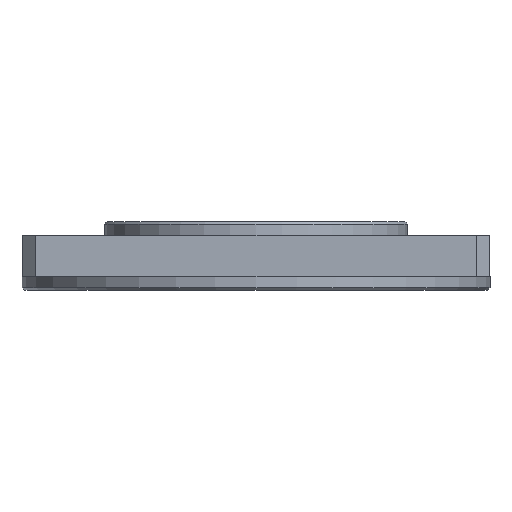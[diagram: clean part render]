
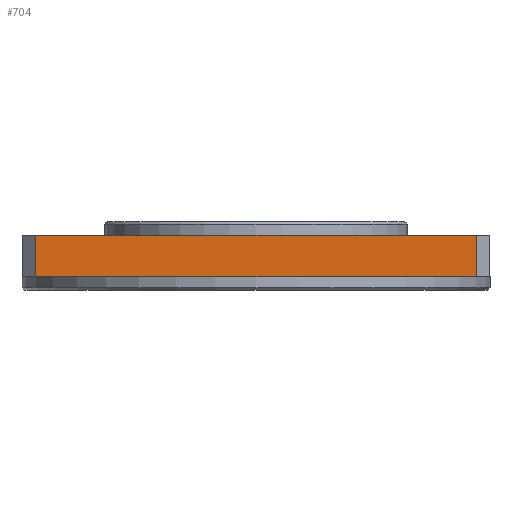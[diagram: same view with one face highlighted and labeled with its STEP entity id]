
A CAD part, front view. The second image highlights one B-rep face of the part: STEP entity #704.
In plain terms, the highlighted planar face has unit normal (0, -1, 0).
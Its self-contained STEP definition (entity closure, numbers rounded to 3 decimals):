
#196 = CARTESIAN_POINT ( 'NONE',  ( -80., -175., 20. ) ) ;
#200 = DIRECTION ( 'NONE',  ( 0., 0., 1. ) ) ;
#359 = DIRECTION ( 'NONE',  ( 0., 0., -1. ) ) ;
#399 = DIRECTION ( 'NONE',  ( -1., 0., 0. ) ) ;
#448 = EDGE_CURVE ( 'NONE', #2171, #2736, #1648, .T. ) ;
#547 = ORIENTED_EDGE ( 'NONE', *, *, #1626, .T. ) ;
#619 = VERTEX_POINT ( 'NONE', #1882 ) ;
#643 = VECTOR ( 'NONE', #2414, 1000. ) ;
#704 = ADVANCED_FACE ( 'NONE', ( #1450 ), #3202, .F. ) ;
#852 = AXIS2_PLACEMENT_3D ( 'NONE', #2212, #959, #200 ) ;
#879 = CARTESIAN_POINT ( 'NONE',  ( 80., -175., 25. ) ) ;
#959 = DIRECTION ( 'NONE',  ( 0., 1., 0. ) ) ;
#1010 = DIRECTION ( 'NONE',  ( 1., 0., 0. ) ) ;
#1275 = VERTEX_POINT ( 'NONE', #196 ) ;
#1286 = ORIENTED_EDGE ( 'NONE', *, *, #1344, .F. ) ;
#1344 = EDGE_CURVE ( 'NONE', #1275, #619, #2268, .T. ) ;
#1431 = VECTOR ( 'NONE', #399, 1000. ) ;
#1450 = FACE_OUTER_BOUND ( 'NONE', #3099, .T. ) ;
#1619 = LINE ( 'NONE', #2647, #2459 ) ;
#1626 = EDGE_CURVE ( 'NONE', #2171, #619, #2465, .T. ) ;
#1648 = LINE ( 'NONE', #2893, #1431 ) ;
#1882 = CARTESIAN_POINT ( 'NONE',  ( 80., -175., 20. ) ) ;
#1907 = CARTESIAN_POINT ( 'NONE',  ( 80., -175., 5. ) ) ;
#2171 = VERTEX_POINT ( 'NONE', #1907 ) ;
#2212 = CARTESIAN_POINT ( 'NONE',  ( -85., -175., 25. ) ) ;
#2268 = LINE ( 'NONE', #2523, #2516 ) ;
#2314 = ORIENTED_EDGE ( 'NONE', *, *, #448, .F. ) ;
#2359 = CARTESIAN_POINT ( 'NONE',  ( -80., -175., 5. ) ) ;
#2414 = DIRECTION ( 'NONE',  ( 0., 0., 1. ) ) ;
#2459 = VECTOR ( 'NONE', #359, 1000. ) ;
#2465 = LINE ( 'NONE', #879, #643 ) ;
#2516 = VECTOR ( 'NONE', #1010, 1000. ) ;
#2518 = ORIENTED_EDGE ( 'NONE', *, *, #2890, .T. ) ;
#2523 = CARTESIAN_POINT ( 'NONE',  ( -85., -175., 20. ) ) ;
#2647 = CARTESIAN_POINT ( 'NONE',  ( -80., -175., 25. ) ) ;
#2736 = VERTEX_POINT ( 'NONE', #2359 ) ;
#2890 = EDGE_CURVE ( 'NONE', #1275, #2736, #1619, .T. ) ;
#2893 = CARTESIAN_POINT ( 'NONE',  ( -85., -175., 5. ) ) ;
#3099 = EDGE_LOOP ( 'NONE', ( #2314, #547, #1286, #2518 ) ) ;
#3202 = PLANE ( 'NONE',  #852 ) ;
